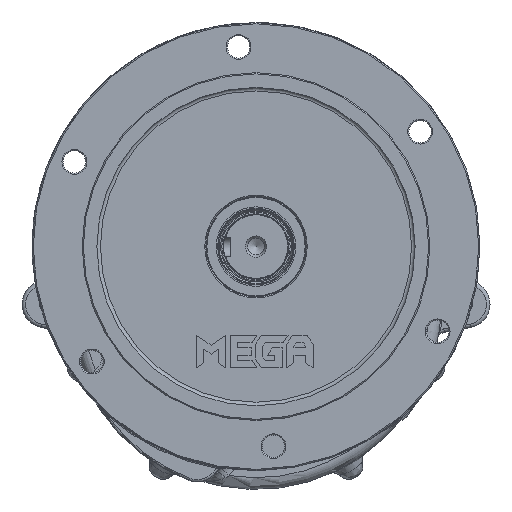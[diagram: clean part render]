
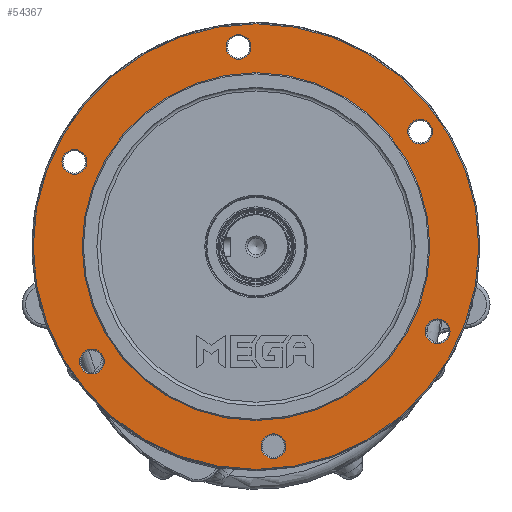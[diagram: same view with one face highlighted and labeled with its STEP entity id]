
A CAD part, front view. The second image highlights one B-rep face of the part: STEP entity #54367.
In plain terms, the highlighted planar face has unit normal (0, -1, 0).
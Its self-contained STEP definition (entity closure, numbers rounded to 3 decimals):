
#1151=FACE_BOUND('',#7483,.T.);
#1152=FACE_BOUND('',#7484,.T.);
#1153=FACE_BOUND('',#7485,.T.);
#1154=FACE_BOUND('',#7486,.T.);
#1155=FACE_BOUND('',#7487,.T.);
#1156=FACE_BOUND('',#7488,.T.);
#1157=FACE_BOUND('',#7489,.T.);
#1736=PLANE('',#58774);
#4068=FACE_OUTER_BOUND('',#7482,.T.);
#7482=EDGE_LOOP('',(#39495));
#7483=EDGE_LOOP('',(#39496));
#7484=EDGE_LOOP('',(#39497));
#7485=EDGE_LOOP('',(#39498));
#7486=EDGE_LOOP('',(#39499));
#7487=EDGE_LOOP('',(#39500));
#7488=EDGE_LOOP('',(#39501));
#7489=EDGE_LOOP('',(#39502));
#10991=CIRCLE('',#58771,10.5);
#10994=CIRCLE('',#58775,189.);
#10995=CIRCLE('',#58776,10.5);
#10996=CIRCLE('',#58777,10.5);
#10997=CIRCLE('',#58778,10.5);
#10998=CIRCLE('',#58779,147.5);
#10999=CIRCLE('',#58780,10.5);
#11000=CIRCLE('',#58781,10.5);
#22598=VERTEX_POINT('',#94326);
#22601=VERTEX_POINT('',#94334);
#22602=VERTEX_POINT('',#94336);
#22603=VERTEX_POINT('',#94338);
#22604=VERTEX_POINT('',#94340);
#22605=VERTEX_POINT('',#94342);
#22606=VERTEX_POINT('',#94344);
#22607=VERTEX_POINT('',#94346);
#28587=EDGE_CURVE('',#22598,#22598,#10991,.T.);
#28591=EDGE_CURVE('',#22601,#22601,#10994,.T.);
#28592=EDGE_CURVE('',#22602,#22602,#10995,.T.);
#28593=EDGE_CURVE('',#22603,#22603,#10996,.T.);
#28594=EDGE_CURVE('',#22604,#22604,#10997,.T.);
#28595=EDGE_CURVE('',#22605,#22605,#10998,.T.);
#28596=EDGE_CURVE('',#22606,#22606,#10999,.T.);
#28597=EDGE_CURVE('',#22607,#22607,#11000,.T.);
#39495=ORIENTED_EDGE('',*,*,#28591,.F.);
#39496=ORIENTED_EDGE('',*,*,#28592,.F.);
#39497=ORIENTED_EDGE('',*,*,#28593,.F.);
#39498=ORIENTED_EDGE('',*,*,#28594,.F.);
#39499=ORIENTED_EDGE('',*,*,#28595,.F.);
#39500=ORIENTED_EDGE('',*,*,#28596,.F.);
#39501=ORIENTED_EDGE('',*,*,#28597,.F.);
#39502=ORIENTED_EDGE('',*,*,#28587,.F.);
#54367=ADVANCED_FACE('',(#4068,#1151,#1152,#1153,#1154,#1155,#1156,#1157),
#1736,.T.);
#58771=AXIS2_PLACEMENT_3D('',#94327,#68399,#68400);
#58774=AXIS2_PLACEMENT_3D('',#94333,#68406,#68407);
#58775=AXIS2_PLACEMENT_3D('',#94335,#68408,#68409);
#58776=AXIS2_PLACEMENT_3D('',#94337,#68410,#68411);
#58777=AXIS2_PLACEMENT_3D('',#94339,#68412,#68413);
#58778=AXIS2_PLACEMENT_3D('',#94341,#68414,#68415);
#58779=AXIS2_PLACEMENT_3D('',#94343,#68416,#68417);
#58780=AXIS2_PLACEMENT_3D('',#94345,#68418,#68419);
#58781=AXIS2_PLACEMENT_3D('',#94347,#68420,#68421);
#68399=DIRECTION('center_axis',(0.,-1.,0.));
#68400=DIRECTION('ref_axis',(-0.5,0.,-0.866));
#68406=DIRECTION('center_axis',(0.,-1.,0.));
#68407=DIRECTION('ref_axis',(0.,0.,-1.));
#68408=DIRECTION('center_axis',(0.,1.,0.));
#68409=DIRECTION('ref_axis',(-1.,0.,0.));
#68410=DIRECTION('center_axis',(0.,-1.,0.));
#68411=DIRECTION('ref_axis',(0.5,0.,-0.866));
#68412=DIRECTION('center_axis',(0.,-1.,0.));
#68413=DIRECTION('ref_axis',(0.5,0.,0.866));
#68414=DIRECTION('center_axis',(0.,-1.,0.));
#68415=DIRECTION('ref_axis',(-1.,0.,0.));
#68416=DIRECTION('center_axis',(0.,-1.,0.));
#68417=DIRECTION('ref_axis',(-1.,0.,0.));
#68418=DIRECTION('center_axis',(0.,-1.,0.));
#68419=DIRECTION('ref_axis',(-0.5,0.,0.866));
#68420=DIRECTION('center_axis',(0.,-1.,0.));
#68421=DIRECTION('ref_axis',(1.,0.,0.));
#94326=CARTESIAN_POINT('',(-161.513,-205.758,128.188));
#94327=CARTESIAN_POINT('Origin',(-166.763,-205.758,119.095));
#94333=CARTESIAN_POINT('Origin',(-12.691,-205.758,47.25));
#94334=CARTESIAN_POINT('',(176.309,-205.758,47.25));
#94335=CARTESIAN_POINT('Origin',(-12.691,-205.758,47.25));
#94336=CARTESIAN_POINT('',(-157.197,-205.758,-41.165));
#94337=CARTESIAN_POINT('Origin',(-151.947,-205.758,-50.258));
#94338=CARTESIAN_POINT('',(136.131,-205.758,-33.688));
#94339=CARTESIAN_POINT('Origin',(141.381,-205.758,-24.595));
#94340=CARTESIAN_POINT('',(-17.008,-205.758,216.603));
#94341=CARTESIAN_POINT('Origin',(-27.508,-205.758,216.603));
#94342=CARTESIAN_POINT('',(134.809,-205.758,47.25));
#94343=CARTESIAN_POINT('Origin',(-12.691,-205.758,47.25));
#94344=CARTESIAN_POINT('',(131.815,-205.758,135.665));
#94345=CARTESIAN_POINT('Origin',(126.565,-205.758,144.758));
#94346=CARTESIAN_POINT('',(-8.375,-205.758,-122.103));
#94347=CARTESIAN_POINT('Origin',(2.125,-205.758,-122.103));
